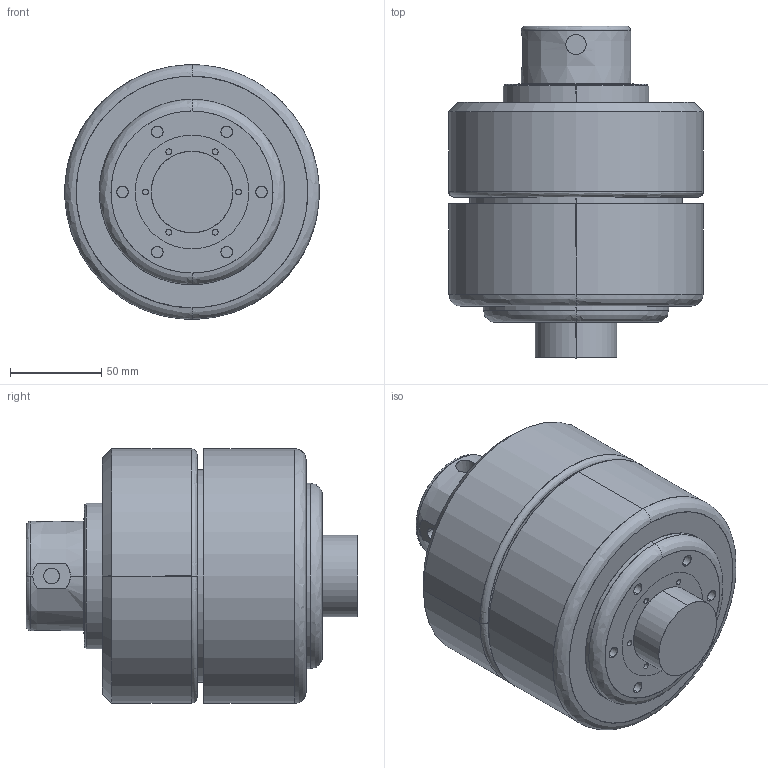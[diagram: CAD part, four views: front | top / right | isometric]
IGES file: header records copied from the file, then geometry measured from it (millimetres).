
Start section: SolidWorks IGES file using analytic representation for surfaces
Global section: file name: \\server\Users\Karen.Bodily\My Documents\defeatured\DBA060 TOP MOUNT.IGS; native system: SolidWorks 2012; preprocessor: SolidWorks 2012; author: karen.bodily; date: 130424.104202; units: inch
Bounding box: 139.7 x 181.99 x 139.7 mm (x, y, z)
Surface area: 101862.3 mm2 (no closed solid volume)
Topology: 0 solids, 0 shells, 121 faces, 3291 edges, 3291 vertices
Faces by surface type: revolution 75, bspline 46
